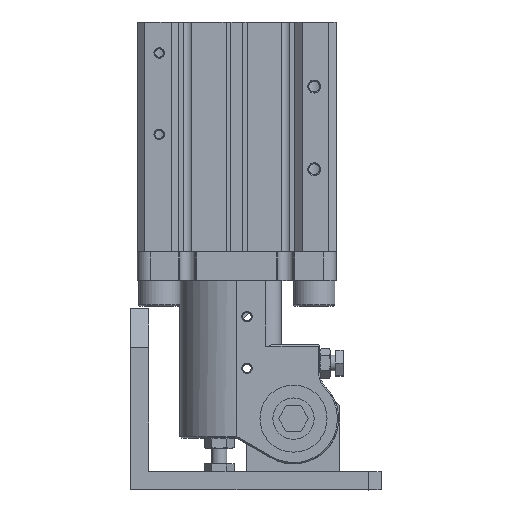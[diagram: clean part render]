
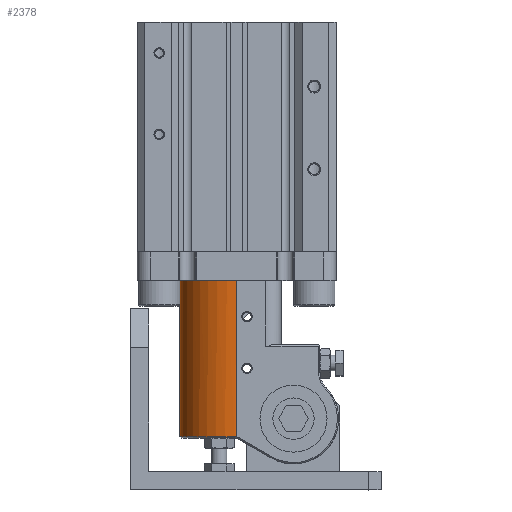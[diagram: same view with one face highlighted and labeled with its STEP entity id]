
A CAD part, top view. The second image highlights one B-rep face of the part: STEP entity #2378.
In plain terms, the highlighted cylindrical face has radius 22 mm (diameter 44 mm), a partial arc.
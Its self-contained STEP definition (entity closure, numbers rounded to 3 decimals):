
#221=B_SPLINE_CURVE_WITH_KNOTS('',3,(#20082,#20083,#20084,#20085,#20086,
#20087,#20088,#20089,#20090,#20091),.UNSPECIFIED.,.F.,.F.,(4,3,3,4),(0.,
0.312,0.655,1.),.UNSPECIFIED.);
#227=B_SPLINE_CURVE_WITH_KNOTS('',3,(#20241,#20242,#20243,#20244,#20245,
#20246,#20247,#20248,#20249,#20250),.UNSPECIFIED.,.F.,.F.,(4,3,3,4),(0.,
0.312,0.655,1.),.UNSPECIFIED.);
#621=CYLINDRICAL_SURFACE('',#13969,22.);
#831=CIRCLE('',#13838,22.);
#883=CIRCLE('',#13932,22.);
#2378=ADVANCED_FACE('',(#3645),#621,.T.);
#3645=FACE_OUTER_BOUND('',#4240,.T.);
#4240=EDGE_LOOP('',(#5972,#5973,#5974,#5975,#5976,#5977));
#5972=ORIENTED_EDGE('',*,*,#10446,.F.);
#5973=ORIENTED_EDGE('',*,*,#10444,.F.);
#5974=ORIENTED_EDGE('',*,*,#10328,.F.);
#5975=ORIENTED_EDGE('',*,*,#10302,.T.);
#5976=ORIENTED_EDGE('',*,*,#10316,.T.);
#5977=ORIENTED_EDGE('',*,*,#10477,.F.);
#8999=VERTEX_POINT('',#19517);
#9000=VERTEX_POINT('',#19518);
#9012=VERTEX_POINT('',#19544);
#9023=VERTEX_POINT('',#19693);
#9107=VERTEX_POINT('',#20092);
#9108=VERTEX_POINT('',#20122);
#10302=EDGE_CURVE('',#8999,#9000,#831,.T.);
#10316=EDGE_CURVE('',#9000,#9012,#11970,.T.);
#10328=EDGE_CURVE('',#8999,#9023,#11974,.T.);
#10444=EDGE_CURVE('',#9023,#9107,#221,.T.);
#10446=EDGE_CURVE('',#9107,#9108,#883,.T.);
#10477=EDGE_CURVE('',#9108,#9012,#227,.T.);
#11970=LINE('',#19545,#12903);
#11974=LINE('',#19692,#12907);
#12903=VECTOR('',#15520,1.);
#12907=VECTOR('',#15546,1.);
#13838=AXIS2_PLACEMENT_3D('',#19516,#15494,#15495);
#13932=AXIS2_PLACEMENT_3D('',#20121,#15757,#15758);
#13969=AXIS2_PLACEMENT_3D('',#20275,#15842,#15843);
#15494=DIRECTION('',(0.,-1.,0.));
#15495=DIRECTION('',(0.,0.,1.));
#15520=DIRECTION('',(0.,-1.,0.));
#15546=DIRECTION('',(0.,-1.,0.));
#15757=DIRECTION('',(0.,-1.,0.));
#15758=DIRECTION('',(-0.037,0.,0.999));
#15842=DIRECTION('',(0.,-1.,0.));
#15843=DIRECTION('',(0.,0.,-1.));
#19516=CARTESIAN_POINT('',(38.5,-11.,-38.5));
#19517=CARTESIAN_POINT('',(38.5,-11.,-16.5));
#19518=CARTESIAN_POINT('',(38.5,-11.,-60.5));
#19544=CARTESIAN_POINT('',(38.5,-71.594,-60.5));
#19545=CARTESIAN_POINT('',(38.5,-11.,-60.5));
#19692=CARTESIAN_POINT('',(38.5,-11.,-16.5));
#19693=CARTESIAN_POINT('',(38.5,-71.594,-16.5));
#20082=CARTESIAN_POINT('',(38.5,-71.594,-16.5));
#20083=CARTESIAN_POINT('',(38.416,-71.574,-16.5));
#20084=CARTESIAN_POINT('',(38.331,-71.558,-16.5));
#20085=CARTESIAN_POINT('',(38.245,-71.544,-16.501));
#20086=CARTESIAN_POINT('',(38.152,-71.53,-16.503));
#20087=CARTESIAN_POINT('',(38.057,-71.519,-16.504));
#20088=CARTESIAN_POINT('',(37.963,-71.511,-16.507));
#20089=CARTESIAN_POINT('',(37.868,-71.504,-16.509));
#20090=CARTESIAN_POINT('',(37.772,-71.5,-16.512));
#20091=CARTESIAN_POINT('',(37.677,-71.5,-16.515));
#20092=CARTESIAN_POINT('',(37.677,-71.5,-16.515));
#20121=CARTESIAN_POINT('',(38.5,-71.5,-38.5));
#20122=CARTESIAN_POINT('',(37.677,-71.5,-60.485));
#20241=CARTESIAN_POINT('',(37.677,-71.5,-60.485));
#20242=CARTESIAN_POINT('',(37.763,-71.5,-60.488));
#20243=CARTESIAN_POINT('',(37.85,-71.503,-60.491));
#20244=CARTESIAN_POINT('',(37.936,-71.509,-60.493));
#20245=CARTESIAN_POINT('',(38.031,-71.516,-60.495));
#20246=CARTESIAN_POINT('',(38.125,-71.526,-60.497));
#20247=CARTESIAN_POINT('',(38.219,-71.54,-60.498));
#20248=CARTESIAN_POINT('',(38.313,-71.554,-60.499));
#20249=CARTESIAN_POINT('',(38.407,-71.572,-60.5));
#20250=CARTESIAN_POINT('',(38.5,-71.594,-60.5));
#20275=CARTESIAN_POINT('',(38.5,-11.,-38.5));
